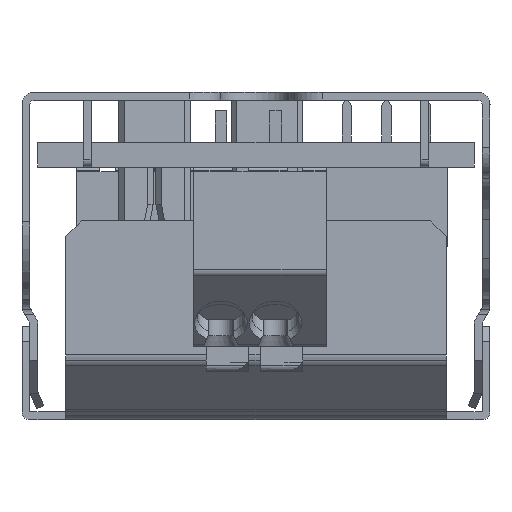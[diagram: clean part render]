
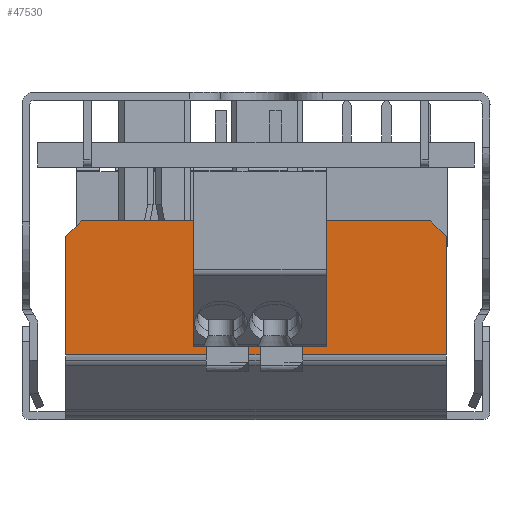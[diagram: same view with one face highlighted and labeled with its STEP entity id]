
A CAD part, front view. The second image highlights one B-rep face of the part: STEP entity #47530.
In plain terms, the highlighted planar face has unit normal (0, -1, 0) as drawn and (1, 0, 0) by its records, which use the part's own axes.
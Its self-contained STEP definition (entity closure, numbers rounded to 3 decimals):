
#45750=CARTESIAN_POINT('',(112.774,-2.8,-1.838));
#45760=VERTEX_POINT('',#45750);
#45790=CARTESIAN_POINT('',(112.774,-2.8,-1.838));
#45800=DIRECTION('',(0.,0.,1.));
#45810=VECTOR('',#45800,1.);
#45820=LINE('',#45790,#45810);
#45830=CARTESIAN_POINT('',(112.774,-2.8,5.748));
#45840=VERTEX_POINT('',#45830);
#45850=EDGE_CURVE('',#45760,#45840,#45820,.T.);
#46020=CARTESIAN_POINT('',(112.774,-3.8,6.748));
#46030=DIRECTION('',(0.,0.707,-0.707));
#46040=VECTOR('',#46030,1.);
#46050=LINE('',#46020,#46040);
#46060=CARTESIAN_POINT('',(112.774,-3.8,6.748));
#46070=VERTEX_POINT('',#46060);
#46080=EDGE_CURVE('',#46070,#45840,#46050,.T.);
#46870=CARTESIAN_POINT('',(112.774,-26.2,6.748));
#46880=DIRECTION('',(0.,1.,0.));
#46890=VECTOR('',#46880,1.);
#46900=LINE('',#46870,#46890);
#46910=CARTESIAN_POINT('',(112.774,-26.2,6.748));
#46920=VERTEX_POINT('',#46910);
#46930=EDGE_CURVE('',#46920,#46070,#46900,.T.);
#47060=CARTESIAN_POINT('',(112.774,0.,6.748));
#47070=DIRECTION('',(1.,0.,0.));
#47080=DIRECTION('',(0.,0.,-1.));
#47090=AXIS2_PLACEMENT_3D('',#47060,#47070,#47080);
#47100=PLANE('',#47090);
#47110=ORIENTED_EDGE('',*,*,#45850,.T.);
#47120=CARTESIAN_POINT('',(112.774,-27.2,-1.838));
#47130=DIRECTION('',(0.,1.,0.));
#47140=VECTOR('',#47130,1.);
#47150=LINE('',#47120,#47140);
#47160=CARTESIAN_POINT('',(112.774,-27.2,-1.838));
#47170=VERTEX_POINT('',#47160);
#47180=EDGE_CURVE('',#47170,#45760,#47150,.T.);
#47190=ORIENTED_EDGE('',*,*,#47180,.T.);
#47200=CARTESIAN_POINT('',(112.774,-27.2,5.748));
#47210=DIRECTION('',(0.,0.,-1.));
#47220=VECTOR('',#47210,1.);
#47230=LINE('',#47200,#47220);
#47240=CARTESIAN_POINT('',(112.774,-27.2,5.748));
#47250=VERTEX_POINT('',#47240);
#47260=EDGE_CURVE('',#47250,#47170,#47230,.T.);
#47270=ORIENTED_EDGE('',*,*,#47260,.T.);
#47280=CARTESIAN_POINT('',(112.774,-27.2,5.748));
#47290=DIRECTION('',(0.,0.707,0.707));
#47300=VECTOR('',#47290,1.);
#47310=LINE('',#47280,#47300);
#47320=EDGE_CURVE('',#47250,#46920,#47310,.T.);
#47330=ORIENTED_EDGE('',*,*,#47320,.F.);
#47340=ORIENTED_EDGE('',*,*,#46930,.F.);
#47350=ORIENTED_EDGE('',*,*,#46080,.F.);
#47360=EDGE_LOOP('',(#47350,#47340,#47330,#47270,#47190,#47110));
#47370=FACE_OUTER_BOUND('',#47360,.T.);
#47380=CARTESIAN_POINT('',(112.774,-15.,1.348));
#47390=DIRECTION('',(1.,0.,0.));
#47400=DIRECTION('',(0.,-1.,0.));
#47410=AXIS2_PLACEMENT_3D('',#47380,#47390,#47400);
#47420=CIRCLE('',#47410,1.);
#47430=CARTESIAN_POINT('',(112.774,-16.,1.348));
#47440=VERTEX_POINT('',#47430);
#47450=CARTESIAN_POINT('',(112.774,-14.,1.348));
#47460=VERTEX_POINT('',#47450);
#47470=EDGE_CURVE('',#47440,#47460,#47420,.T.);
#47480=ORIENTED_EDGE('',*,*,#47470,.F.);
#47490=EDGE_CURVE('',#47460,#47440,#47420,.T.);
#47500=ORIENTED_EDGE('',*,*,#47490,.F.);
#47510=EDGE_LOOP('',(#47500,#47480));
#47520=FACE_BOUND('',#47510,.T.);
#47530=ADVANCED_FACE('',(#47370,#47520),#47100,.T.);
